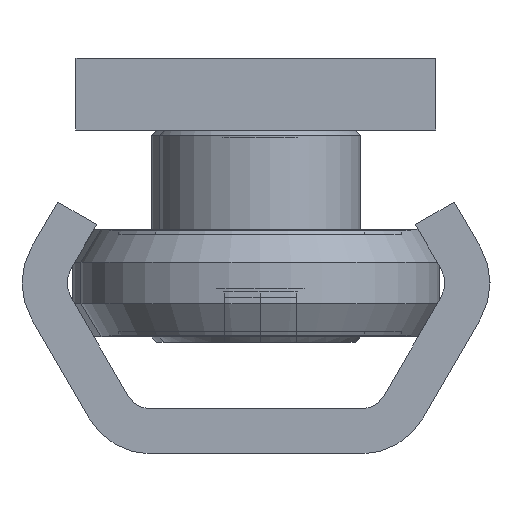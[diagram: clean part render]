
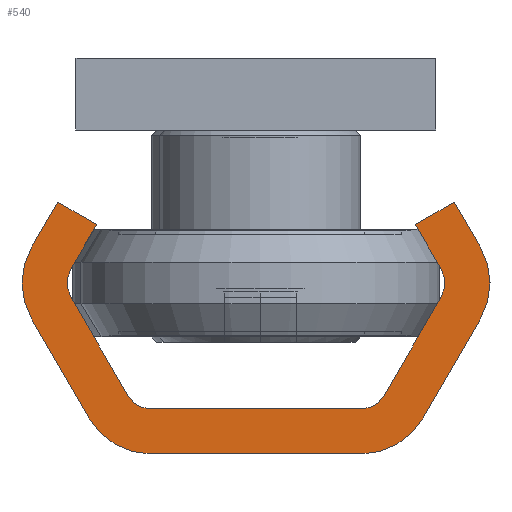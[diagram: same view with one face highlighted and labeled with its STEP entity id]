
A CAD part, left-side view. The second image highlights one B-rep face of the part: STEP entity #540.
In plain terms, the highlighted planar face has unit normal (-1, 0, 0).
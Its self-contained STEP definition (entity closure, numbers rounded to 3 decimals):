
#540 = ADVANCED_FACE( '', ( #1169 ), #1170, .F. );
#1169 = FACE_OUTER_BOUND( '', #2035, .T. );
#1170 = PLANE( '', #2036 );
#2035 = EDGE_LOOP( '', ( #3268, #3269, #3270, #3271, #3272, #3273, #3274, #3275, #3276, #3277, #3278, #3279, #3280, #3281, #3282, #3283, #3284, #3285, #3286, #3287 ) );
#2036 = AXIS2_PLACEMENT_3D( '', #3288, #3289, #3290 );
#3268 = ORIENTED_EDGE( '', *, *, #4160, .F. );
#3269 = ORIENTED_EDGE( '', *, *, #4052, .F. );
#3270 = ORIENTED_EDGE( '', *, *, #4059, .F. );
#3271 = ORIENTED_EDGE( '', *, *, #3985, .F. );
#3272 = ORIENTED_EDGE( '', *, *, #4237, .F. );
#3273 = ORIENTED_EDGE( '', *, *, #4273, .F. );
#3274 = ORIENTED_EDGE( '', *, *, #4220, .F. );
#3275 = ORIENTED_EDGE( '', *, *, #4243, .T. );
#3276 = ORIENTED_EDGE( '', *, *, #3963, .F. );
#3277 = ORIENTED_EDGE( '', *, *, #3918, .T. );
#3278 = ORIENTED_EDGE( '', *, *, #4274, .F. );
#3279 = ORIENTED_EDGE( '', *, *, #4275, .T. );
#3280 = ORIENTED_EDGE( '', *, *, #4177, .F. );
#3281 = ORIENTED_EDGE( '', *, *, #4276, .T. );
#3282 = ORIENTED_EDGE( '', *, *, #4263, .F. );
#3283 = ORIENTED_EDGE( '', *, *, #4277, .F. );
#3284 = ORIENTED_EDGE( '', *, *, #4278, .F. );
#3285 = ORIENTED_EDGE( '', *, *, #4279, .F. );
#3286 = ORIENTED_EDGE( '', *, *, #4210, .F. );
#3287 = ORIENTED_EDGE( '', *, *, #4203, .F. );
#3288 = CARTESIAN_POINT( '', ( 0., -5.825, -4. ) );
#3289 = DIRECTION( '', ( 1., 0., 0. ) );
#3290 = DIRECTION( '', ( 0., 0., -1. ) );
#3918 = EDGE_CURVE( '', #4461, #4462, #4463, .T. );
#3963 = EDGE_CURVE( '', #4461, #4540, #4541, .T. );
#3985 = EDGE_CURVE( '', #4575, #4576, #4577, .T. );
#4052 = EDGE_CURVE( '', #4689, #4690, #4691, .T. );
#4059 = EDGE_CURVE( '', #4576, #4689, #4700, .T. );
#4160 = EDGE_CURVE( '', #4690, #4866, #4867, .T. );
#4177 = EDGE_CURVE( '', #4891, #4892, #4893, .T. );
#4203 = EDGE_CURVE( '', #4866, #4928, #4929, .T. );
#4210 = EDGE_CURVE( '', #4928, #4938, #4939, .T. );
#4220 = EDGE_CURVE( '', #4952, #4953, #4954, .T. );
#4237 = EDGE_CURVE( '', #4977, #4575, #4978, .T. );
#4243 = EDGE_CURVE( '', #4952, #4540, #4985, .T. );
#4263 = EDGE_CURVE( '', #5011, #5012, #5013, .T. );
#4273 = EDGE_CURVE( '', #4953, #4977, #5024, .T. );
#4274 = EDGE_CURVE( '', #5025, #4462, #5026, .T. );
#4275 = EDGE_CURVE( '', #5025, #4892, #5027, .T. );
#4276 = EDGE_CURVE( '', #4891, #5012, #5028, .T. );
#4277 = EDGE_CURVE( '', #5029, #5011, #5030, .T. );
#4278 = EDGE_CURVE( '', #5031, #5029, #5032, .T. );
#4279 = EDGE_CURVE( '', #4938, #5031, #5033, .T. );
#4461 = VERTEX_POINT( '', #5256 );
#4462 = VERTEX_POINT( '', #5257 );
#4463 = CIRCLE( '', #5258, 1.5 );
#4540 = VERTEX_POINT( '', #5351 );
#4541 = LINE( '', #5352, #5353 );
#4575 = VERTEX_POINT( '', #5395 );
#4576 = VERTEX_POINT( '', #5396 );
#4577 = CIRCLE( '', #5397, 4. );
#4689 = VERTEX_POINT( '', #5534 );
#4690 = VERTEX_POINT( '', #5535 );
#4691 = CIRCLE( '', #5536, 4. );
#4700 = LINE( '', #5547, #5548 );
#4866 = VERTEX_POINT( '', #5736 );
#4867 = LINE( '', #5737, #5738 );
#4891 = VERTEX_POINT( '', #5763 );
#4892 = VERTEX_POINT( '', #5764 );
#4893 = LINE( '', #5765, #5766 );
#4928 = VERTEX_POINT( '', #5813 );
#4929 = CIRCLE( '', #5814, 4. );
#4938 = VERTEX_POINT( '', #5824 );
#4939 = LINE( '', #5825, #5826 );
#4952 = VERTEX_POINT( '', #5840 );
#4953 = VERTEX_POINT( '', #5841 );
#4954 = LINE( '', #5842, #5843 );
#4977 = VERTEX_POINT( '', #5868 );
#4978 = LINE( '', #5869, #5870 );
#4985 = CIRCLE( '', #5878, 1.5 );
#5011 = VERTEX_POINT( '', #5905 );
#5012 = VERTEX_POINT( '', #5906 );
#5013 = LINE( '', #5907, #5908 );
#5024 = LINE( '', #5925, #5926 );
#5025 = VERTEX_POINT( '', #5927 );
#5026 = LINE( '', #5928, #5929 );
#5027 = CIRCLE( '', #5930, 1.5 );
#5028 = CIRCLE( '', #5931, 1.5 );
#5029 = VERTEX_POINT( '', #5932 );
#5030 = LINE( '', #5933, #5934 );
#5031 = VERTEX_POINT( '', #5935 );
#5032 = LINE( '', #5936, #5937 );
#5033 = CIRCLE( '', #5938, 4. );
#5256 = CARTESIAN_POINT( '', ( 0., 7.124, -3.25 ) );
#5257 = CARTESIAN_POINT( '', ( 0., 5.825, -2.5 ) );
#5258 = AXIS2_PLACEMENT_3D( '', #6175, #6176, #6177 );
#5351 = CARTESIAN_POINT( '', ( 0., 10.299, -8.75 ) );
#5352 = CARTESIAN_POINT( '', ( 0., 7.124, -3.25 ) );
#5353 = VECTOR( '', #6245, 1000. );
#5395 = CARTESIAN_POINT( '', ( 0., 12.464, -11.5 ) );
#5396 = CARTESIAN_POINT( '', ( 0., 12.464, -7.5 ) );
#5397 = AXIS2_PLACEMENT_3D( '', #6272, #6273, #6274 );
#5534 = CARTESIAN_POINT( '', ( 0., 9.289, -2. ) );
#5535 = CARTESIAN_POINT( '', ( 0., 5.825, 0. ) );
#5536 = AXIS2_PLACEMENT_3D( '', #6375, #6376, #6377 );
#5547 = CARTESIAN_POINT( '', ( 0., 12.464, -7.5 ) );
#5548 = VECTOR( '', #6386, 1000. );
#5736 = CARTESIAN_POINT( '', ( 0., -5.825, 0. ) );
#5737 = CARTESIAN_POINT( '', ( 0., 5.825, 0. ) );
#5738 = VECTOR( '', #6586, 1000. );
#5763 = CARTESIAN_POINT( '', ( 0., -10.299, -8.75 ) );
#5764 = CARTESIAN_POINT( '', ( 0., -7.124, -3.25 ) );
#5765 = CARTESIAN_POINT( '', ( 0., -10.299, -8.75 ) );
#5766 = VECTOR( '', #6612, 1000. );
#5813 = CARTESIAN_POINT( '', ( 0., -9.289, -2. ) );
#5814 = AXIS2_PLACEMENT_3D( '', #6640, #6641, #6642 );
#5824 = CARTESIAN_POINT( '', ( 0., -12.464, -7.5 ) );
#5825 = CARTESIAN_POINT( '', ( 0., -9.289, -2. ) );
#5826 = VECTOR( '', #6650, 1000. );
#5840 = CARTESIAN_POINT( '', ( 0., 10.299, -10.25 ) );
#5841 = CARTESIAN_POINT( '', ( 0., 8.856, -12.75 ) );
#5842 = CARTESIAN_POINT( '', ( 0., 10.299, -10.25 ) );
#5843 = VECTOR( '', #6664, 1000. );
#5868 = CARTESIAN_POINT( '', ( 0., 11.021, -14. ) );
#5869 = CARTESIAN_POINT( '', ( 0., 11.021, -14. ) );
#5870 = VECTOR( '', #6688, 1000. );
#5878 = AXIS2_PLACEMENT_3D( '', #6693, #6694, #6695 );
#5905 = CARTESIAN_POINT( '', ( 0., -8.856, -12.75 ) );
#5906 = CARTESIAN_POINT( '', ( 0., -10.299, -10.25 ) );
#5907 = CARTESIAN_POINT( '', ( 0., -8.856, -12.75 ) );
#5908 = VECTOR( '', #6733, 1000. );
#5925 = CARTESIAN_POINT( '', ( 0., 8.856, -12.75 ) );
#5926 = VECTOR( '', #6740, 1000. );
#5927 = CARTESIAN_POINT( '', ( 0., -5.825, -2.5 ) );
#5928 = CARTESIAN_POINT( '', ( 0., -5.825, -2.5 ) );
#5929 = VECTOR( '', #6741, 1000. );
#5930 = AXIS2_PLACEMENT_3D( '', #6742, #6743, #6744 );
#5931 = AXIS2_PLACEMENT_3D( '', #6745, #6746, #6747 );
#5932 = CARTESIAN_POINT( '', ( 0., -11.021, -14. ) );
#5933 = CARTESIAN_POINT( '', ( 0., -11.021, -14. ) );
#5934 = VECTOR( '', #6748, 1000. );
#5935 = CARTESIAN_POINT( '', ( 0., -12.464, -11.5 ) );
#5936 = CARTESIAN_POINT( '', ( 0., -12.464, -11.5 ) );
#5937 = VECTOR( '', #6749, 1000. );
#5938 = AXIS2_PLACEMENT_3D( '', #6750, #6751, #6752 );
#6175 = CARTESIAN_POINT( '', ( 0., 5.825, -4. ) );
#6176 = DIRECTION( '', ( 1., 0., 0. ) );
#6177 = DIRECTION( '', ( 0., 0., -1. ) );
#6245 = DIRECTION( '', ( 0., 0.5, -0.866 ) );
#6272 = CARTESIAN_POINT( '', ( 0., 9., -9.5 ) );
#6273 = DIRECTION( '', ( 1., 0., 0. ) );
#6274 = DIRECTION( '', ( 0., 0., -1. ) );
#6375 = CARTESIAN_POINT( '', ( 0., 5.825, -4. ) );
#6376 = DIRECTION( '', ( 1., 0., 0. ) );
#6377 = DIRECTION( '', ( 0., 0., -1. ) );
#6386 = DIRECTION( '', ( 0., -0.5, 0.866 ) );
#6586 = DIRECTION( '', ( 0., -1., 0. ) );
#6612 = DIRECTION( '', ( 0., 0.5, 0.866 ) );
#6640 = CARTESIAN_POINT( '', ( 0., -5.825, -4. ) );
#6641 = DIRECTION( '', ( 1., 0., 0. ) );
#6642 = DIRECTION( '', ( 0., 0., -1. ) );
#6650 = DIRECTION( '', ( 0., -0.5, -0.866 ) );
#6664 = DIRECTION( '', ( 0., -0.5, -0.866 ) );
#6688 = DIRECTION( '', ( 0., 0.5, 0.866 ) );
#6693 = CARTESIAN_POINT( '', ( 0., 9., -9.5 ) );
#6694 = DIRECTION( '', ( 1., 0., 0. ) );
#6695 = DIRECTION( '', ( 0., 0., -1. ) );
#6733 = DIRECTION( '', ( 0., -0.5, 0.866 ) );
#6740 = DIRECTION( '', ( 0., 0.866, -0.5 ) );
#6741 = DIRECTION( '', ( 0., 1., 0. ) );
#6742 = CARTESIAN_POINT( '', ( 0., -5.825, -4. ) );
#6743 = DIRECTION( '', ( 1., 0., 0. ) );
#6744 = DIRECTION( '', ( 0., 0., -1. ) );
#6745 = CARTESIAN_POINT( '', ( 0., -9., -9.5 ) );
#6746 = DIRECTION( '', ( 1., 0., 0. ) );
#6747 = DIRECTION( '', ( 0., 0., -1. ) );
#6748 = DIRECTION( '', ( 0., 0.866, 0.5 ) );
#6749 = DIRECTION( '', ( 0., 0.5, -0.866 ) );
#6750 = CARTESIAN_POINT( '', ( 0., -9., -9.5 ) );
#6751 = DIRECTION( '', ( 1., 0., 0. ) );
#6752 = DIRECTION( '', ( 0., 0., -1. ) );
